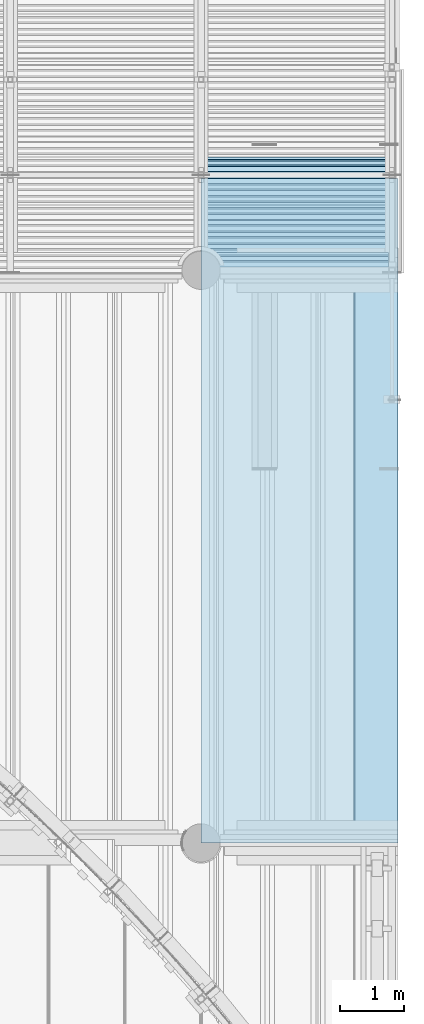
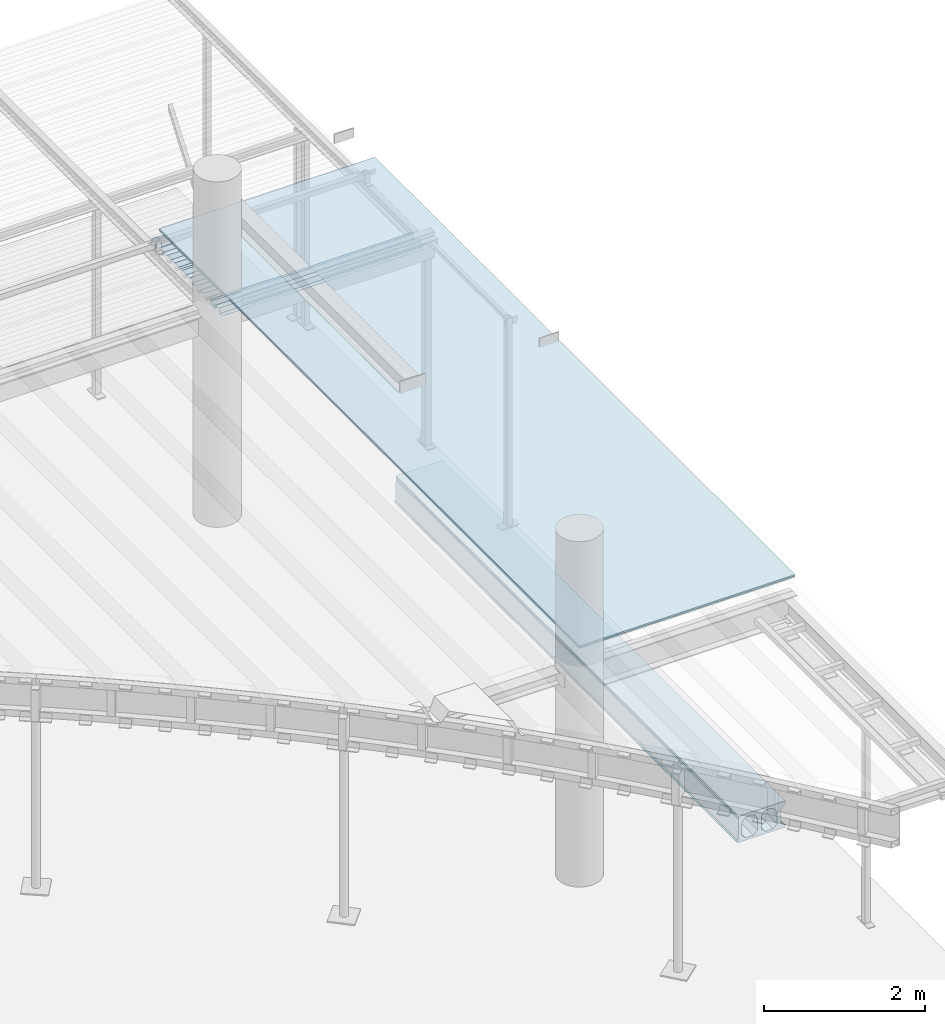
# One storey, part 75 of 98: 4 slabs, 2 plates.
"""IFC2X3 building model written with IfcOpenShell, lengths in millimetres."""

from ifc_helpers import new_model, entity, si_unit, converted_unit, derived_unit, direction, frame, origin_with_axes, place, context, subcontext, project, spatial, faceted_brep, material, type_object, element, save


model = new_model("IFC2X3")

# Units and contexts
model_context = context("Model", 3, precision=0.01, world=frame((0.0, 4.29681676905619e-09, 0.0)), true_north=direction((4.01073788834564e-13, 1.0)))
plan_context = context("Plan", 3, precision=0.01, world=frame((0.0, 4.29681676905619e-09, 0.0)), true_north=direction((4.01073788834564e-13, 1.0)))
body_context = subcontext(model_context, "Body", "Model", "MODEL_VIEW")
ifc_project = project(units=[converted_unit("PLANEANGLEUNIT", "DEGREE", entity("IfcPositiveLengthMeasure", 0.0174532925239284), si_unit("PLANEANGLEUNIT", "RADIAN"), dimensions=[0, 0, 0, 0, 0, 0, 0]), si_unit("AREAUNIT", "SQUARE_METRE"), si_unit("LENGTHUNIT", "METRE", prefix="MILLI"), si_unit("MASSUNIT", "GRAM", prefix="KILO"), si_unit("POWERUNIT", "WATT"), si_unit("PRESSUREUNIT", "PASCAL"), si_unit("FORCEUNIT", "NEWTON", prefix="KILO"), si_unit("ELECTRICCURRENTUNIT", "AMPERE"), si_unit("THERMODYNAMICTEMPERATUREUNIT", "DEGREE_CELSIUS"), si_unit("TIMEUNIT", "SECOND"), si_unit("VOLUMEUNIT", "CUBIC_METRE"), derived_unit("LINEARVELOCITYUNIT", [(si_unit("LENGTHUNIT", "METRE"), 1), (si_unit("TIMEUNIT", "SECOND"), -1)]), derived_unit("VOLUMETRICFLOWRATEUNIT", [(si_unit("VOLUMEUNIT", "CUBIC_METRE"), 1), (si_unit("TIMEUNIT", "SECOND"), -1)]), derived_unit("THERMALTRANSMITTANCEUNIT", [(si_unit("POWERUNIT", "WATT"), 1), (si_unit("THERMODYNAMICTEMPERATUREUNIT", "KELVIN"), -1), (si_unit("AREAUNIT", "SQUARE_METRE"), -1)])], contexts=[model_context, plan_context])

# Site, building, storey
site_placement = place(None, frame((0.0, -4.29681676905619e-09, 0.0), z_axis=(0.0, 0.0, 1.0), x_axis=(1.0, 0.0, 0.0)))
site = spatial("IfcSite", under=ifc_project, at=site_placement, Name="Gardermoen", CompositionType="ELEMENT")
building_placement = place(site_placement, frame((0.0, 4.29681676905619e-09, 0.0), z_axis=(0.0, 0.0, 1.0), x_axis=(1.0, 0.0, 0.0)))
building = spatial("IfcBuilding", under=site, at=building_placement, Name="TS", CompositionType="ELEMENT")
storey_placement = place(building_placement, origin_with_axes())
storey = spatial("IfcBuildingStorey", under=building, at=storey_placement, Name="D", CompositionType="ELEMENT", Elevation=0.0)

# Plates
plate_type = type_object("IfcPlateType", Name="PL20*10444", PredefinedType="NOTDEFINED")
for number, where, z_axis, x_axis, name in (
    (1, (528999.995566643, 405499.998481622, 207347.5), (0.0, 1.0, 0.0), (1.0, 0.0, 0.0), "TRINNLYDPLATE"),
    (2, (528999.995566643, 405499.998481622, 207367.5), (0.0, 1.0, 0.0), (1.0, 0.0, 0.0), "TRETAK"),
):
    element("IfcPlate", number, at=place(storey_placement, frame(where, z_axis=z_axis, x_axis=x_axis)), inside=storey, type_object=plate_type, Name=name, ObjectType="PL20*10444", context=body_context, shape_type="Brep", body=[
        faceted_brep([(0.0, 10.0, 0.0), (0.003814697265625, 10.0, 10443.748046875), (0.003814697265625, -10.0, 10443.748046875), (0.0, -10.0, 0.0), (3095.00443335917, 10.0, 10443.748046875), (3095.00443335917, -10.0, 10443.748046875), (3095.00443335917, -10.0, 0.0), (3095.00443335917, 10.0, 0.0)], [[[0, 1, 2, 3]], [[4, 5, 2, 1]], [[6, 7, 0, 3]], [[7, 4, 1, 0]], [[5, 6, 3, 2]], [[7, 6, 5, 4]]], orient=[[False], [False], [False], [False], [False], [False]]),
    ])

# Slabs
slab_type_1 = type_object("IfcSlabType", Name="HD400", PredefinedType="NOTDEFINED")
slab_1_placement = place(storey_placement, frame((531999.999766, 405739.995625, 203600.0), z_axis=(0.0, 0.0, 1.0), x_axis=(0.0, 1.0, 0.0)))
element("IfcSlab", 3, at=slab_1_placement, inside=storey, type_object=slab_type_1, Name="HULLDEKKE", ObjectType="HD400", PredefinedType="FLOOR", context=body_context, shape_type="Brep", body=[
    faceted_brep([(8520.0, 600.0, -190.0), (8520.0, 600.0, -180.0), (0.0, 600.0, -180.0), (0.0, 600.0, -190.0), (8520.0, 585.0, -170.0), (0.0, 585.0, -170.0), (8520.0, 577.5, 145.0), (0.0, 577.5, 145.0), (8520.0, 570.0, 160.0), (0.0, 570.0, 160.0), (8520.0, 577.5, 175.0), (0.0, 577.5, 175.0), (8520.0, 577.5, 200.0), (0.0, 577.5, 200.0), (8520.0, -95.0002340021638, 200.0), (0.0, -95.0002340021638, 200.0), (0.0, -95.0002340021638, -200.0), (8520.0, -95.0002340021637, -200.0), (8520.0, 583.380004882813, -200.0), (0.0, 583.380004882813, -200.0), (8520.0, -95.0002340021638, -160.0), (0.0, -95.0002340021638, -160.0), (0.0, -82.5, -160.0), (8520.0, -82.5, -160.0), (0.0, -95.0002340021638, 150.599015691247), (8520.0, -95.0002340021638, 150.599015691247), (8520.0, -94.8092647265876, 150.524499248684), (0.0, -94.8092647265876, 150.524499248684), (8520.0, -86.4559182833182, 146.440797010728), (0.0, -86.4559182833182, 146.440797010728), (8520.0, -78.4683322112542, 141.681228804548), (0.0, -78.4683322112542, 141.681228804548), (8520.0, -70.9010698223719, 136.278307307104), (0.0, -70.9010698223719, 136.278307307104), (8520.0, -63.8058231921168, 130.268939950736), (0.0, -63.8058231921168, 130.268939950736), (8520.0, -57.2310600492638, 123.694176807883), (0.0, -57.2310600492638, 123.694176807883), (8520.0, -51.2216926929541, 116.598930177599), (0.0, -51.2216926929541, 116.598930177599), (8520.0, -45.8187711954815, 109.031667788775), (0.0, -45.8187711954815, 109.031667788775), (8520.0, -41.0592029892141, 101.044081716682), (0.0, -41.0592029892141, 101.044081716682), (8520.0, -36.9755007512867, 92.6907352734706), (0.0, -36.9755007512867, 92.6907352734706), (8520.0, -33.5955603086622, 84.028690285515), (0.0, -33.5955603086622, 84.028690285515), (8520.0, -30.942470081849, 75.1171173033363), (0.0, -30.942470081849, 75.1171173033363), (8520.0, -29.0343533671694, 66.0168914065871), (0.0, -29.0343533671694, 66.0168914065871), (8520.0, -27.8842445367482, 56.7901763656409), (0.0, -27.8842445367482, 56.7901763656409), (8520.0, -27.5, 47.5), (0.0, -27.5, 47.5), (8520.0, -27.5, -105.0), (0.0, -27.5, -105.0), (8520.0, 197.5, -160.0), (8520.0, 82.5, -160.0), (0.0, 82.5, -160.0), (0.0, 197.5, -160.0), (8520.0, 27.5, -105.0), (0.0, 27.5, -105.0), (8520.0, 27.5, 47.5), (0.0, 27.5, 47.5), (8520.0, 27.8842445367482, 56.7901763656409), (0.0, 27.8842445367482, 56.7901763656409), (8520.0, 29.0343533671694, 66.0168914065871), (0.0, 29.0343533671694, 66.0168914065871), (8520.0, 30.942470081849, 75.1171173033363), (0.0, 30.942470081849, 75.1171173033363), (8520.0, 33.5955603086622, 84.028690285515), (0.0, 33.5955603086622, 84.028690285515), (8520.0, 36.9755007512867, 92.6907352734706), (0.0, 36.9755007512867, 92.6907352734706), (8520.0, 41.0592029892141, 101.044081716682), (0.0, 41.0592029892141, 101.044081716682), (8520.0, 45.8187711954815, 109.031667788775), (0.0, 45.8187711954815, 109.031667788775), (8520.0, 51.2216926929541, 116.598930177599), (0.0, 51.2216926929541, 116.598930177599), (8520.0, 57.2310600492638, 123.694176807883), (0.0, 57.2310600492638, 123.694176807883), (8520.0, 63.8058231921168, 130.268939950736), (0.0, 63.8058231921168, 130.268939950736), (8520.0, 70.9010698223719, 136.278307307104), (0.0, 70.9010698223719, 136.278307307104), (8520.0, 78.4683322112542, 141.681228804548), (0.0, 78.4683322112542, 141.681228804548), (8520.0, 86.4559182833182, 146.440797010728), (0.0, 86.4559182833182, 146.440797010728), (8520.0, 94.8092647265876, 150.524499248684), (0.0, 94.8092647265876, 150.524499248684), (8520.0, 103.471309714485, 153.904439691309), (0.0, 103.471309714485, 153.904439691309), (8520.0, 112.382882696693, 156.55752991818), (0.0, 112.382882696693, 156.55752991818), (8520.0, 121.483108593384, 158.465646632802), (0.0, 121.483108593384, 158.465646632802), (8520.0, 130.709823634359, 159.615755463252), (0.0, 130.709823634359, 159.615755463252), (8520.0, 140.0, 160.0), (0.0, 140.0, 160.0), (8520.0, 149.290176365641, 159.615755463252), (0.0, 149.290176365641, 159.615755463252), (8520.0, 158.516891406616, 158.465646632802), (0.0, 158.516891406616, 158.465646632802), (8520.0, 167.617117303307, 156.55752991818), (0.0, 167.617117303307, 156.55752991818), (8520.0, 176.528690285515, 153.904439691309), (0.0, 176.528690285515, 153.904439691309), (8520.0, 185.190735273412, 150.524499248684), (0.0, 185.190735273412, 150.524499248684), (8520.0, 193.544081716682, 146.440797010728), (0.0, 193.544081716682, 146.440797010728), (8520.0, 201.531667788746, 141.681228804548), (0.0, 201.531667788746, 141.681228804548), (8520.0, 209.098930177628, 136.278307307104), (0.0, 209.098930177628, 136.278307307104), (8520.0, 216.194176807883, 130.268939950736), (0.0, 216.194176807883, 130.268939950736), (8520.0, 222.768939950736, 123.694176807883), (0.0, 222.768939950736, 123.694176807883), (8520.0, 228.778307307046, 116.598930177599), (0.0, 228.778307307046, 116.598930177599), (8520.0, 234.181228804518, 109.031667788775), (0.0, 234.181228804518, 109.031667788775), (8520.0, 238.940797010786, 101.044081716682), (0.0, 238.940797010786, 101.044081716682), (8520.0, 243.024499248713, 92.6907352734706), (0.0, 243.024499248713, 92.6907352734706), (8520.0, 246.404439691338, 84.028690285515), (0.0, 246.404439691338, 84.028690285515), (8520.0, 249.057529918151, 75.1171173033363), (0.0, 249.057529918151, 75.1171173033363), (8520.0, 250.965646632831, 66.0168914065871), (0.0, 250.965646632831, 66.0168914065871), (8520.0, 252.115755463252, 56.7901763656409), (0.0, 252.115755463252, 56.7901763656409), (8520.0, 252.5, 47.5), (0.0, 252.5, 47.5), (8520.0, 252.5, -105.0), (0.0, 252.5, -105.0), (8520.0, 477.5, -160.0), (8520.0, 362.5, -160.0), (0.0, 362.5, -160.0), (0.0, 477.5, -160.0), (8520.0, 307.5, -105.0), (0.0, 307.5, -105.0), (8520.0, 307.5, 47.5), (0.0, 307.5, 47.5), (8520.0, 307.884244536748, 56.7901763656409), (0.0, 307.884244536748, 56.7901763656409), (8520.0, 309.034353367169, 66.0168914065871), (0.0, 309.034353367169, 66.0168914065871), (8520.0, 310.942470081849, 75.1171173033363), (0.0, 310.942470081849, 75.1171173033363), (8520.0, 313.595560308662, 84.028690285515), (0.0, 313.595560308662, 84.028690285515), (8520.0, 316.975500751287, 92.6907352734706), (0.0, 316.975500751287, 92.6907352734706), (8520.0, 321.059202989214, 101.044081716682), (0.0, 321.059202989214, 101.044081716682), (8520.0, 325.818771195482, 109.031667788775), (0.0, 325.818771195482, 109.031667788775), (8520.0, 331.221692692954, 116.598930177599), (0.0, 331.221692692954, 116.598930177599), (8520.0, 337.231060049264, 123.694176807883), (0.0, 337.231060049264, 123.694176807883), (8520.0, 343.805823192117, 130.268939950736), (0.0, 343.805823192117, 130.268939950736), (8520.0, 350.901069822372, 136.278307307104), (0.0, 350.901069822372, 136.278307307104), (8520.0, 358.468332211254, 141.681228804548), (0.0, 358.468332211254, 141.681228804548), (8520.0, 366.455918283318, 146.440797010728), (0.0, 366.455918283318, 146.440797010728), (8520.0, 374.809264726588, 150.524499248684), (0.0, 374.809264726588, 150.524499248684), (8520.0, 383.471309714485, 153.904439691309), (0.0, 383.471309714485, 153.904439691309), (8520.0, 392.382882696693, 156.55752991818), (0.0, 392.382882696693, 156.55752991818), (8520.0, 401.483108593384, 158.465646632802), (0.0, 401.483108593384, 158.465646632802), (8520.0, 410.709823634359, 159.615755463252), (0.0, 410.709823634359, 159.615755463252), (8520.0, 420.0, 160.0), (0.0, 420.0, 160.0), (8520.0, 429.290176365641, 159.615755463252), (0.0, 429.290176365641, 159.615755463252), (8520.0, 438.516891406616, 158.465646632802), (0.0, 438.516891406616, 158.465646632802), (8520.0, 447.617117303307, 156.55752991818), (0.0, 447.617117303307, 156.55752991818), (8520.0, 456.528690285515, 153.904439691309), (0.0, 456.528690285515, 153.904439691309), (8520.0, 465.190735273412, 150.524499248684), (0.0, 465.190735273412, 150.524499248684), (8520.0, 473.544081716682, 146.440797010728), (0.0, 473.544081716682, 146.440797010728), (8520.0, 481.531667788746, 141.681228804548), (0.0, 481.531667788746, 141.681228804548), (8520.0, 489.098930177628, 136.278307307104), (0.0, 489.098930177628, 136.278307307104), (8520.0, 496.194176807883, 130.268939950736), (0.0, 496.194176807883, 130.268939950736), (8520.0, 502.768939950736, 123.694176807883), (0.0, 502.768939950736, 123.694176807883), (8520.0, 508.778307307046, 116.598930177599), (0.0, 508.778307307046, 116.598930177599), (8520.0, 514.181228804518, 109.031667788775), (0.0, 514.181228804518, 109.031667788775), (8520.0, 518.940797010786, 101.044081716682), (0.0, 518.940797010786, 101.044081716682), (8520.0, 523.024499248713, 92.6907352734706), (0.0, 523.024499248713, 92.6907352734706), (8520.0, 526.404439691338, 84.028690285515), (0.0, 526.404439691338, 84.028690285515), (8520.0, 529.057529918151, 75.1171173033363), (0.0, 529.057529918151, 75.1171173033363), (8520.0, 530.965646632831, 66.0168914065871), (0.0, 530.965646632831, 66.0168914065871), (8520.0, 532.115755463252, 56.7901763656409), (0.0, 532.115755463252, 56.7901763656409), (8520.0, 532.5, 47.5), (0.0, 532.5, 47.5), (8520.0, 532.5, -105.0), (0.0, 532.5, -105.0)], [[[0, 1, 2, 3]], [[1, 4, 5, 2]], [[4, 6, 7, 5]], [[6, 8, 9, 7]], [[8, 10, 11, 9]], [[10, 12, 13, 11]], [[14, 15, 13, 12]], [[16, 17, 18, 19]], [[18, 0, 3, 19]], [[20, 21, 22, 23]], [[24, 25, 26, 27]], [[26, 28, 29, 27]], [[28, 30, 31, 29]], [[30, 32, 33, 31]], [[32, 34, 35, 33]], [[34, 36, 37, 35]], [[36, 38, 39, 37]], [[38, 40, 41, 39]], [[40, 42, 43, 41]], [[42, 44, 45, 43]], [[44, 46, 47, 45]], [[46, 48, 49, 47]], [[48, 50, 51, 49]], [[50, 52, 53, 51]], [[52, 54, 55, 53]], [[54, 56, 57, 55]], [[56, 23, 22, 57]], [[58, 59, 60, 61]], [[59, 62, 63, 60]], [[62, 64, 65, 63]], [[64, 66, 67, 65]], [[66, 68, 69, 67]], [[68, 70, 71, 69]], [[70, 72, 73, 71]], [[72, 74, 75, 73]], [[74, 76, 77, 75]], [[76, 78, 79, 77]], [[78, 80, 81, 79]], [[80, 82, 83, 81]], [[82, 84, 85, 83]], [[84, 86, 87, 85]], [[86, 88, 89, 87]], [[88, 90, 91, 89]], [[90, 92, 93, 91]], [[92, 94, 95, 93]], [[94, 96, 97, 95]], [[96, 98, 99, 97]], [[98, 100, 101, 99]], [[100, 102, 103, 101]], [[102, 104, 105, 103]], [[104, 106, 107, 105]], [[106, 108, 109, 107]], [[108, 110, 111, 109]], [[110, 112, 113, 111]], [[112, 114, 115, 113]], [[114, 116, 117, 115]], [[116, 118, 119, 117]], [[118, 120, 121, 119]], [[120, 122, 123, 121]], [[122, 124, 125, 123]], [[124, 126, 127, 125]], [[126, 128, 129, 127]], [[128, 130, 131, 129]], [[130, 132, 133, 131]], [[132, 134, 135, 133]], [[134, 136, 137, 135]], [[136, 138, 139, 137]], [[138, 140, 141, 139]], [[140, 142, 143, 141]], [[142, 58, 61, 143]], [[144, 145, 146, 147]], [[145, 148, 149, 146]], [[148, 150, 151, 149]], [[150, 152, 153, 151]], [[152, 154, 155, 153]], [[154, 156, 157, 155]], [[156, 158, 159, 157]], [[158, 160, 161, 159]], [[160, 162, 163, 161]], [[162, 164, 165, 163]], [[166, 167, 165, 164]], [[166, 168, 169, 167]], [[168, 170, 171, 169]], [[170, 172, 173, 171]], [[172, 174, 175, 173]], [[174, 176, 177, 175]], [[176, 178, 179, 177]], [[178, 180, 181, 179]], [[180, 182, 183, 181]], [[182, 184, 185, 183]], [[184, 186, 187, 185]], [[186, 188, 189, 187]], [[188, 190, 191, 189]], [[190, 192, 193, 191]], [[192, 194, 195, 193]], [[194, 196, 197, 195]], [[196, 198, 199, 197]], [[198, 200, 201, 199]], [[200, 202, 203, 201]], [[202, 204, 205, 203]], [[204, 206, 207, 205]], [[206, 208, 209, 207]], [[208, 210, 211, 209]], [[210, 212, 213, 211]], [[212, 214, 215, 213]], [[214, 216, 217, 215]], [[216, 218, 219, 217]], [[218, 220, 221, 219]], [[220, 222, 223, 221]], [[222, 224, 225, 223]], [[224, 226, 227, 225]], [[226, 228, 229, 227]], [[228, 144, 147, 229]], [[17, 20, 23, 56, 54, 52, 50, 48, 46, 44, 42, 40, 38, 36, 34, 32, 30, 28, 26, 25, 14, 12, 10, 8, 6, 4, 1, 0, 18], [145, 144, 228, 226, 224, 222, 220, 218, 216, 214, 212, 210, 208, 206, 204, 202, 200, 198, 196, 194, 192, 190, 188, 186, 184, 182, 180, 178, 176, 174, 172, 170, 168, 166, 164, 162, 160, 158, 156, 154, 152, 150, 148], [59, 58, 142, 140, 138, 136, 134, 132, 130, 128, 126, 124, 122, 120, 118, 116, 114, 112, 110, 108, 106, 104, 102, 100, 98, 96, 94, 92, 90, 88, 86, 84, 82, 80, 78, 76, 74, 72, 70, 68, 66, 64, 62]], [[15, 24, 27, 29, 31, 33, 35, 37, 39, 41, 43, 45, 47, 49, 51, 53, 55, 57, 22, 21, 16, 19, 3, 2, 5, 7, 9, 11, 13], [147, 146, 149, 151, 153, 155, 157, 159, 161, 163, 165, 167, 169, 171, 173, 175, 177, 179, 181, 183, 185, 187, 189, 191, 193, 195, 197, 199, 201, 203, 205, 207, 209, 211, 213, 215, 217, 219, 221, 223, 225, 227, 229], [61, 60, 63, 65, 67, 69, 71, 73, 75, 77, 79, 81, 83, 85, 87, 89, 91, 93, 95, 97, 99, 101, 103, 105, 107, 109, 111, 113, 115, 117, 119, 121, 123, 125, 127, 129, 131, 133, 135, 137, 139, 141, 143]], [[25, 24, 15, 14]], [[21, 20, 17, 16]]], orient=[[False], [False], [False], [False], [False], [False], [False], [False], [False], [False], [False], [False], [False], [False], [False], [False], [False], [False], [False], [False], [False], [False], [False], [False], [False], [False], [False], [False], [False], [False], [False], [False], [False], [False], [False], [False], [False], [False], [False], [False], [False], [False], [False], [False], [False], [False], [False], [False], [False], [False], [False], [False], [False], [False], [False], [False], [False], [False], [False], [False], [False], [False], [False], [False], [False], [False], [False], [False], [False], [False], [False], [False], [False], [False], [False], [False], [False], [False], [False], [False], [False], [False], [False], [False], [False], [False], [False], [False], [False], [False], [False], [False], [False], [False], [False], [False], [False], [False], [False], [False], [False], [False], [False], [False], [False], [False], [False], [False], [False], [False], [False], [False], [False], [False, False, False], [False, False, False], [False], [False]]),
])
ifc_material = material(Name="STEEL/S355")
slab_type_2 = type_object("IfcSlabType", Name="PLANJA70", PredefinedType="NOTDEFINED")
slab_2_placement = place(storey_placement, frame((531950.000000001, 414404.996695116, 206958.849718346), z_axis=(0.0, 0.0, 1.0), x_axis=(-0.999999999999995, -9.99999902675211e-08, 0.0)))
element("IfcSlab", 4, at=slab_2_placement, inside=storey, type_object=slab_type_2, material=ifc_material, Name="STÅLTAK", ObjectType="PLANJA70", PredefinedType="FLOOR", context=body_context, shape_type="Brep", body=[
    faceted_brep([(0.0, -148.519882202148, 33.1500015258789), (0.0, -126.0, -34.1500015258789), (2900.00079747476, -126.0, -34.1500015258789), (2900.00079747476, -148.519882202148, 33.1500015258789), (0.0, -226.480117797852, 33.1500015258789), (2900.00079747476, -226.480117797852, 33.1500015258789), (0.0, -249.0, -34.1500015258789), (2900.00079747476, -249.0, -34.1500015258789), (0.0, -313.5, -34.1500015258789), (2900.00079747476, -313.5, -34.1500015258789), (0.0, -335.789306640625, 32.1500015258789), (2900.00079747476, -335.789306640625, 32.1500015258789), (0.0, -375.0, 32.1500015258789), (2900.00079747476, -375.0, 32.1500015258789), (0.0, -375.0, 33.1500015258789), (2900.00079747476, -375.0, 33.1500015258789), (0.0, -335.070495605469, 33.1500015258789), (2900.00079747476, -335.070495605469, 33.1500015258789), (0.0, -312.781188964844, -33.1500015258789), (2900.00079747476, -312.781188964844, -33.1500015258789), (0.0, -249.719879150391, -33.1500015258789), (2900.00079747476, -249.719879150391, -33.1500015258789), (0.0, -227.199996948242, 34.1500015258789), (2900.00079747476, -227.199996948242, 34.1500015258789), (0.0, -147.800003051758, 34.1500015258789), (2900.00079747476, -147.800003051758, 34.1500015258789), (0.0, -125.280120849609, -33.1500015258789), (2900.00079747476, -125.280120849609, -33.1500015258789), (2900.00079747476, -62.2198791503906, -33.1500015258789), (0.0, -62.2198791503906, -33.1500015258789), (0.0, -62.2198791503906, -34.1500015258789), (2900.00079747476, -62.2198791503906, -34.1500015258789)], [[[0, 1, 2, 3]], [[4, 0, 3, 5]], [[6, 4, 5, 7]], [[8, 6, 7, 9]], [[10, 8, 9, 11]], [[12, 10, 11, 13]], [[14, 12, 13, 15]], [[16, 14, 15, 17]], [[18, 16, 17, 19]], [[20, 18, 19, 21]], [[22, 20, 21, 23]], [[24, 22, 23, 25]], [[26, 24, 25, 27]], [[26, 27, 28, 29]], [[1, 0, 4, 6, 8, 10, 12, 14, 16, 18, 20, 22, 24, 26, 29, 30]], [[2, 1, 30, 31]], [[27, 25, 23, 21, 19, 17, 15, 13, 11, 9, 7, 5, 3, 2, 31, 28]], [[30, 29, 28, 31]]]),
])
slab_3_placement = place(storey_placement, frame((531950.000000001, 415154.996695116, 206958.849718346), z_axis=(0.0, 0.0, 1.0), x_axis=(-0.999999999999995, -9.99999902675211e-08, 0.0)))
element("IfcSlab", 5, at=slab_3_placement, inside=storey, type_object=slab_type_2, material=ifc_material, Name="STÅLTAK", ObjectType="PLANJA70", PredefinedType="FLOOR", context=body_context, shape_type="Brep", body=[
    faceted_brep([(0.0, 375.0, 34.1500015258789), (0.0, 335.299987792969, 34.1500015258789), (2900.00079747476, 335.299987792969, 34.1500015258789), (2900.00079747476, 375.0, 34.1500015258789), (0.0, 313.010681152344, -32.1500015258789), (2900.00079747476, 313.010681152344, -32.1500015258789), (0.0, 249.489303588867, -32.1500015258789), (2900.00079747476, 249.489303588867, -32.1500015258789), (0.0, 227.199996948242, 34.1500015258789), (2900.00079747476, 227.199996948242, 34.1500015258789), (0.0, 147.800003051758, 34.1500015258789), (2900.00079747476, 147.800003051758, 34.1500015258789), (0.0, 125.280120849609, -33.1500015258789), (2900.00079747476, 125.280120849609, -33.1500015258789), (0.0, 62.2198791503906, -33.1500015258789), (2900.00079747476, 62.2198791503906, -33.1500015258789), (0.0, 39.7000007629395, 34.1500015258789), (2900.00079747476, 39.7000007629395, 34.1500015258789), (0.0, -39.7000007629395, 34.1500015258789), (2900.00079747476, -39.7000007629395, 34.1500015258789), (0.0, -62.2198791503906, -33.1500015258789), (2900.00079747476, -62.2198791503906, -33.1500015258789), (0.0, -125.280120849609, -33.1500015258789), (2900.00079747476, -125.280120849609, -33.1500015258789), (0.0, -147.800003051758, 34.1500015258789), (2900.00079747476, -147.800003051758, 34.1500015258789), (0.0, -227.199996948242, 34.1500015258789), (2900.00079747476, -227.199996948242, 34.1500015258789), (0.0, -249.719879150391, -33.1500015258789), (2900.00079747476, -249.719879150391, -33.1500015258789), (0.0, -312.781188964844, -33.1500015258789), (2900.00079747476, -312.781188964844, -33.1500015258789), (0.0, -335.070495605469, 33.1500015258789), (2900.00079747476, -335.070495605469, 33.1500015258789), (0.0, -375.0, 33.1500015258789), (2900.00079747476, -375.0, 33.1500015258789), (0.0, -375.0, 32.1500015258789), (2900.00079747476, -375.0, 32.1500015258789), (0.0, -335.789306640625, 32.1500015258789), (2900.00079747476, -335.789306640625, 32.1500015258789), (0.0, -313.5, -34.1500015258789), (2900.00079747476, -313.5, -34.1500015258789), (0.0, -249.0, -34.1500015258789), (2900.00079747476, -249.0, -34.1500015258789), (0.0, -226.480117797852, 33.1500015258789), (2900.00079747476, -226.480117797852, 33.1500015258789), (0.0, -148.519882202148, 33.1500015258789), (2900.00079747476, -148.519882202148, 33.1500015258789), (0.0, -126.0, -34.1500015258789), (2900.00079747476, -126.0, -34.1500015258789), (0.0, -61.5, -34.1500015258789), (2900.00079747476, -61.5, -34.1500015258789), (0.0, -38.9801177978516, 33.1500015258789), (2900.00079747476, -38.9801177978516, 33.1500015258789), (0.0, 38.9801177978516, 33.1500015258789), (2900.00079747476, 38.9801177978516, 33.1500015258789), (0.0, 61.5, -34.1500015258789), (2900.00079747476, 61.5, -34.1500015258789), (0.0, 126.0, -34.1500015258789), (2900.00079747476, 126.0, -34.1500015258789), (0.0, 148.519882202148, 33.1500015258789), (2900.00079747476, 148.519882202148, 33.1500015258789), (0.0, 226.481185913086, 33.1500015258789), (2900.00079747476, 226.481185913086, 33.1500015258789), (0.0, 248.770492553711, -33.1500015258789), (2900.00079747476, 248.770492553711, -33.1500015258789), (0.0, 313.7294921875, -33.1500015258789), (2900.00079747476, 313.7294921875, -33.1500015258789), (0.0, 336.018798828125, 33.1500015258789), (2900.00079747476, 336.018798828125, 33.1500015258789), (0.0, 375.0, 33.1500015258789), (2900.00079747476, 375.0, 33.1500015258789)], [[[0, 1, 2, 3]], [[1, 4, 5, 2]], [[4, 6, 7, 5]], [[6, 8, 9, 7]], [[8, 10, 11, 9]], [[10, 12, 13, 11]], [[12, 14, 15, 13]], [[14, 16, 17, 15]], [[16, 18, 19, 17]], [[18, 20, 21, 19]], [[22, 23, 21, 20]], [[22, 24, 25, 23]], [[24, 26, 27, 25]], [[26, 28, 29, 27]], [[28, 30, 31, 29]], [[30, 32, 33, 31]], [[32, 34, 35, 33]], [[34, 36, 37, 35]], [[36, 38, 39, 37]], [[38, 40, 41, 39]], [[40, 42, 43, 41]], [[42, 44, 45, 43]], [[44, 46, 47, 45]], [[46, 48, 49, 47]], [[48, 50, 51, 49]], [[50, 52, 53, 51]], [[52, 54, 55, 53]], [[54, 56, 57, 55]], [[56, 58, 59, 57]], [[58, 60, 61, 59]], [[60, 62, 63, 61]], [[62, 64, 65, 63]], [[64, 66, 67, 65]], [[66, 68, 69, 67]], [[68, 70, 71, 69]], [[70, 0, 3, 71]], [[5, 7, 9, 11, 13, 15, 17, 19, 21, 23, 25, 27, 29, 31, 33, 35, 37, 39, 41, 43, 45, 47, 49, 51, 53, 55, 57, 59, 61, 63, 65, 67, 69, 71, 3, 2]], [[70, 68, 66, 64, 62, 60, 58, 56, 54, 52, 50, 48, 46, 44, 42, 40, 38, 36, 34, 32, 30, 28, 26, 24, 22, 20, 18, 16, 14, 12, 10, 8, 6, 4, 1, 0]]]),
])
slab_4_placement = place(storey_placement, frame((531950.000000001, 415904.996695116, 206958.849718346), z_axis=(0.0, 0.0, 1.0), x_axis=(-0.999999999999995, -9.99999902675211e-08, 0.0)))
element("IfcSlab", 6, at=slab_4_placement, inside=storey, type_object=slab_type_2, material=ifc_material, Name="STÅLTAK", ObjectType="PLANJA70", PredefinedType="FLOOR", context=body_context, shape_type="Brep", body=[
    faceted_brep([(0.0, 375.0, 34.1500015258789), (0.0, 335.299987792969, 34.1500015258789), (2900.00079747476, 335.299987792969, 34.1500015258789), (2900.00079747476, 375.0, 34.1500015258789), (0.0, 313.010681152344, -32.1500015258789), (2900.00079747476, 313.010681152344, -32.1500015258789), (0.0, 249.489303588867, -32.1500015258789), (2900.00079747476, 249.489303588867, -32.1500015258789), (0.0, 227.199996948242, 34.1500015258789), (2900.00079747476, 227.199996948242, 34.1500015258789), (0.0, 147.800003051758, 34.1500015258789), (2900.00079747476, 147.800003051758, 34.1500015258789), (0.0, 125.280120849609, -33.1500015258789), (2900.00079747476, 125.280120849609, -33.1500015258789), (0.0, 62.2198791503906, -33.1500015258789), (2900.00079747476, 62.2198791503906, -33.1500015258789), (0.0, 39.7000007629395, 34.1500015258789), (2900.00079747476, 39.7000007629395, 34.1500015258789), (0.0, -39.7000007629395, 34.1500015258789), (2900.00079747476, -39.7000007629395, 34.1500015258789), (0.0, -62.2198791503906, -33.1500015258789), (2900.00079747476, -62.2198791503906, -33.1500015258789), (0.0, -125.280120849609, -33.1500015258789), (2900.00079747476, -125.280120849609, -33.1500015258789), (0.0, -147.800003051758, 34.1500015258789), (2900.00079747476, -147.800003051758, 34.1500015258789), (0.0, -227.199996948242, 34.1500015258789), (2900.00079747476, -227.199996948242, 34.1500015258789), (0.0, -249.719879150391, -33.1500015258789), (2900.00079747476, -249.719879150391, -33.1500015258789), (0.0, -312.781188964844, -33.1500015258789), (2900.00079747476, -312.781188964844, -33.1500015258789), (0.0, -335.070495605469, 33.1500015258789), (2900.00079747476, -335.070495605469, 33.1500015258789), (0.0, -375.0, 33.1500015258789), (2900.00079747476, -375.0, 33.1500015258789), (0.0, -375.0, 32.1500015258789), (2900.00079747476, -375.0, 32.1500015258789), (0.0, -335.789306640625, 32.1500015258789), (2900.00079747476, -335.789306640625, 32.1500015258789), (0.0, -313.5, -34.1500015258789), (2900.00079747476, -313.5, -34.1500015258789), (0.0, -249.0, -34.1500015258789), (2900.00079747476, -249.0, -34.1500015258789), (0.0, -226.480117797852, 33.1500015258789), (2900.00079747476, -226.480117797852, 33.1500015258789), (0.0, -148.519882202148, 33.1500015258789), (2900.00079747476, -148.519882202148, 33.1500015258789), (0.0, -126.0, -34.1500015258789), (2900.00079747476, -126.0, -34.1500015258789), (0.0, -61.5, -34.1500015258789), (2900.00079747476, -61.5, -34.1500015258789), (0.0, -38.9801177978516, 33.1500015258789), (2900.00079747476, -38.9801177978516, 33.1500015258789), (0.0, 38.9801177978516, 33.1500015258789), (2900.00079747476, 38.9801177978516, 33.1500015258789), (0.0, 61.5, -34.1500015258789), (2900.00079747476, 61.5, -34.1500015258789), (0.0, 126.0, -34.1500015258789), (2900.00079747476, 126.0, -34.1500015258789), (0.0, 148.519882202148, 33.1500015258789), (2900.00079747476, 148.519882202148, 33.1500015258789), (0.0, 226.481185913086, 33.1500015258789), (2900.00079747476, 226.481185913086, 33.1500015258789), (0.0, 248.770492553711, -33.1500015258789), (2900.00079747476, 248.770492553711, -33.1500015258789), (0.0, 313.7294921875, -33.1500015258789), (2900.00079747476, 313.7294921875, -33.1500015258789), (0.0, 336.018798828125, 33.1500015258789), (2900.00079747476, 336.018798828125, 33.1500015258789), (0.0, 375.0, 33.1500015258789), (2900.00079747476, 375.0, 33.1500015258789)], [[[0, 1, 2, 3]], [[1, 4, 5, 2]], [[4, 6, 7, 5]], [[6, 8, 9, 7]], [[8, 10, 11, 9]], [[10, 12, 13, 11]], [[12, 14, 15, 13]], [[14, 16, 17, 15]], [[16, 18, 19, 17]], [[18, 20, 21, 19]], [[22, 23, 21, 20]], [[22, 24, 25, 23]], [[24, 26, 27, 25]], [[26, 28, 29, 27]], [[28, 30, 31, 29]], [[30, 32, 33, 31]], [[32, 34, 35, 33]], [[34, 36, 37, 35]], [[36, 38, 39, 37]], [[38, 40, 41, 39]], [[40, 42, 43, 41]], [[42, 44, 45, 43]], [[44, 46, 47, 45]], [[46, 48, 49, 47]], [[48, 50, 51, 49]], [[50, 52, 53, 51]], [[52, 54, 55, 53]], [[54, 56, 57, 55]], [[56, 58, 59, 57]], [[58, 60, 61, 59]], [[60, 62, 63, 61]], [[62, 64, 65, 63]], [[64, 66, 67, 65]], [[66, 68, 69, 67]], [[68, 70, 71, 69]], [[70, 0, 3, 71]], [[5, 7, 9, 11, 13, 15, 17, 19, 21, 23, 25, 27, 29, 31, 33, 35, 37, 39, 41, 43, 45, 47, 49, 51, 53, 55, 57, 59, 61, 63, 65, 67, 69, 71, 3, 2]], [[70, 68, 66, 64, 62, 60, 58, 56, 54, 52, 50, 48, 46, 44, 42, 40, 38, 36, 34, 32, 30, 28, 26, 24, 22, 20, 18, 16, 14, 12, 10, 8, 6, 4, 1, 0]]]),
])

save(model, "model.ifc")
